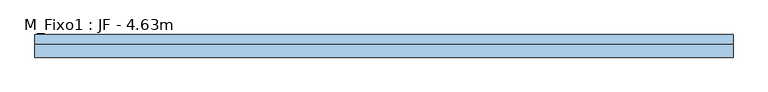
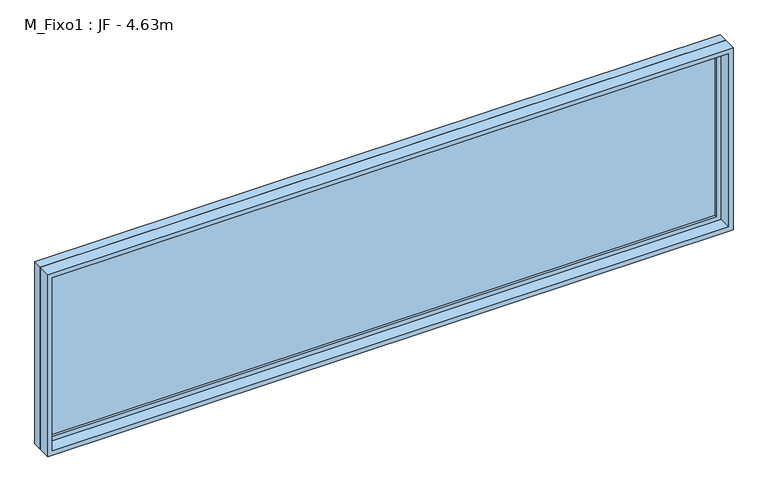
"""IFC4 building model written with IfcOpenShell, lengths in millimetres: window geometry, M_Fixo1 : JF - 4.63m."""

from ifc_helpers import new_model, si_unit, frame, origin, place, context, project, spatial, polyline, outline, extrude, source, transform, mapped, element, save


def m_fixo1_jf_4_63m_5edc98cf(model_context):
    return source(origin(), model_context, "Body", "SweptSolid", [
        extrude(outline(polyline([(-2252.0, 53.0), (2252.0, 53.0), (2252.0, 41.0), (-2252.0, 41.0), (-2252.0, 53.0)])), frame((0.0, 0.0, 978.0), z_axis=(0.0, 0.0, 1.0), x_axis=(1.0, 0.0, 0.0)), (0.0, 0.0, 1.0), 1174.0),
        extrude(outline(polyline([(2196.0, -2296.0), (934.0, -2296.0), (934.0, 2296.0), (2196.0, 2296.0), (2196.0, -2296.0)]), holes=[polyline([(2152.0, -2252.0), (2152.0, 2252.0), (978.0, 2252.0), (978.0, -2252.0), (2152.0, -2252.0)])]), frame((0.0, 25.0, 0.0), z_axis=(0.0, 1.0, 0.0), x_axis=(0.0, 0.0, 1.0)), (0.0, 0.0, 1.0), 44.0),
        extrude(outline(polyline([(2215.0, -2315.0), (915.0, -2315.0), (915.0, 2315.0), (2215.0, 2315.0), (2215.0, -2315.0)]), holes=[polyline([(2196.0, -2296.0), (2196.0, 2296.0), (934.0, 2296.0), (934.0, -2296.0), (2196.0, -2296.0)])]), frame((0.0, 25.0, 0.0), z_axis=(0.0, 1.0, 0.0), x_axis=(0.0, 0.0, 1.0)), (0.0, 0.0, 1.0), 63.0),
        extrude(outline(polyline([(2215.0, -2315.0), (915.0, -2315.0), (915.0, 2315.0), (2215.0, 2315.0), (2215.0, -2315.0)]), holes=[polyline([(2183.0, -2283.0), (2183.0, 2283.0), (947.0, 2283.0), (947.0, -2283.0), (2183.0, -2283.0)])]), frame((0.0, -62.0, 0.0), z_axis=(0.0, 1.0, 0.0), x_axis=(0.0, 0.0, 1.0)), (0.0, 0.0, 1.0), 87.0),
    ])


if __name__ == "__main__":
    model = new_model("IFC4")
    model_context = context("Model", 3, world=origin())
    ifc_project = project(units=[si_unit("LENGTHUNIT", "METRE", prefix="MILLI")], contexts=[model_context])
    site = spatial("IfcSite", under=ifc_project)
    building = spatial("IfcBuilding", under=site)
    placement = place(None, origin())
    m_fixo1_jf_4_63m_shape = m_fixo1_jf_4_63m_5edc98cf(model_context)
    element("IfcWindow", 1, ObjectType="M_Fixo1 : JF - 4.63m", at=placement, inside=building, context=model_context, shape_type="MappedRepresentation", body=[
        mapped(m_fixo1_jf_4_63m_shape, transform((0.0, 0.0, 0.0), x_axis=(1.0, 0.0, 0.0), y_axis=(0.0, 1.0, 0.0), z_axis=(0.0, 0.0, 1.0))),
    ])
    save(model, "model.ifc")
